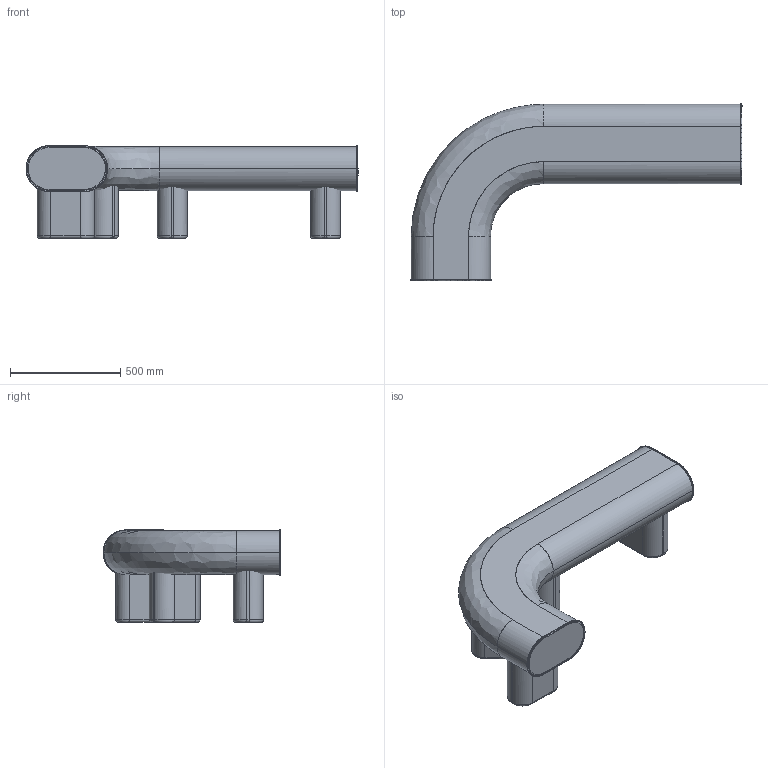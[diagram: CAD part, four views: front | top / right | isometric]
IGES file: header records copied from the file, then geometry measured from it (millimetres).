
Global section: file name: C:\Users\market02\Desktop\RYAN\3D\LITHO\FLITHBA150_Banc_Bench_Litho\FLITHBA150H_Banc_Bench_Litho\FLITHBA150H_Banc_Bench_Litho.igs; native system: Rhinoceros ( Dec 14 2021 ); preprocessor: Trout Lake IGES 012 Dec 14 2021; date: 220804.090929; units: millimetre
Bounding box: 1505.13 x 805.17 x 419.03 mm (x, y, z)
Surface area: 2726572.8 mm2 (no closed solid volume)
Topology: 0 solids, 0 shells, 110 faces, 742 edges, 732 vertices
Faces by surface type: bspline 110
